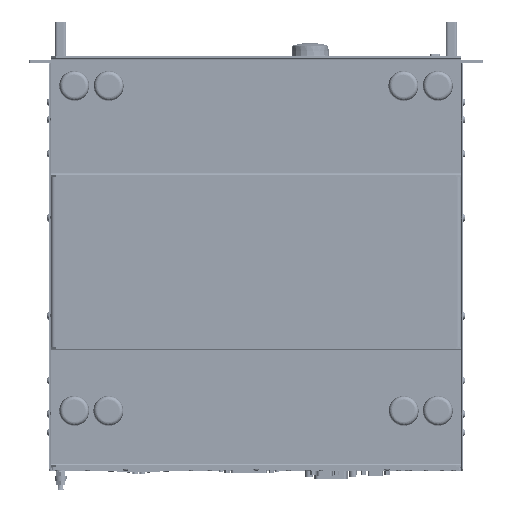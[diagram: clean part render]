
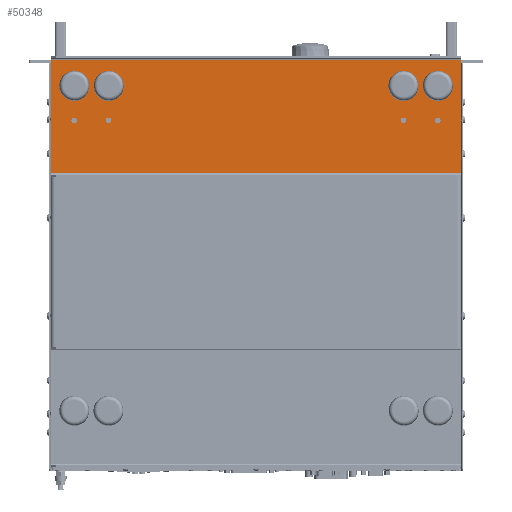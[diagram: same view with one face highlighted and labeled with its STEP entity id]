
A CAD part, front view. The second image highlights one B-rep face of the part: STEP entity #50348.
In plain terms, the highlighted planar face has unit normal (0, -1, 0).
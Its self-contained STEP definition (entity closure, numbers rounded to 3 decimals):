
#50348=ADVANCED_FACE('',(#107739,#107740,#107741,#107742,#107743,#107744,#107745,#107746,#107747),#107748,.T.);
#107739=FACE_OUTER_BOUND('',#203176,.T.);
#107740=FACE_BOUND('',#203177,.T.);
#107741=FACE_BOUND('',#203178,.T.);
#107742=FACE_BOUND('',#203179,.T.);
#107743=FACE_BOUND('',#203180,.T.);
#107744=FACE_BOUND('',#203181,.T.);
#107745=FACE_BOUND('',#203182,.T.);
#107746=FACE_BOUND('',#203183,.T.);
#107747=FACE_BOUND('',#203184,.T.);
#107748=PLANE('',#203185);
#203176=EDGE_LOOP('',(#342150,#342151,#342152,#342153));
#203177=EDGE_LOOP('',(#342154,#342155));
#203178=EDGE_LOOP('',(#342156,#342157));
#203179=EDGE_LOOP('',(#342158,#342159));
#203180=EDGE_LOOP('',(#342160,#342161));
#203181=EDGE_LOOP('',(#342162,#342163));
#203182=EDGE_LOOP('',(#342164,#342165));
#203183=EDGE_LOOP('',(#342166,#342167));
#203184=EDGE_LOOP('',(#342168,#342169));
#203185=AXIS2_PLACEMENT_3D('',#342170,#342171,#342172);
#342150=ORIENTED_EDGE('',*,*,#446006,.F.);
#342151=ORIENTED_EDGE('',*,*,#446036,.T.);
#342152=ORIENTED_EDGE('',*,*,#446010,.F.);
#342153=ORIENTED_EDGE('',*,*,#446088,.T.);
#342154=ORIENTED_EDGE('',*,*,#445983,.T.);
#342155=ORIENTED_EDGE('',*,*,#446072,.T.);
#342156=ORIENTED_EDGE('',*,*,#445978,.T.);
#342157=ORIENTED_EDGE('',*,*,#446074,.T.);
#342158=ORIENTED_EDGE('',*,*,#445973,.T.);
#342159=ORIENTED_EDGE('',*,*,#446076,.T.);
#342160=ORIENTED_EDGE('',*,*,#445968,.T.);
#342161=ORIENTED_EDGE('',*,*,#446078,.T.);
#342162=ORIENTED_EDGE('',*,*,#445963,.T.);
#342163=ORIENTED_EDGE('',*,*,#446080,.T.);
#342164=ORIENTED_EDGE('',*,*,#445958,.T.);
#342165=ORIENTED_EDGE('',*,*,#446082,.T.);
#342166=ORIENTED_EDGE('',*,*,#445953,.T.);
#342167=ORIENTED_EDGE('',*,*,#446084,.T.);
#342168=ORIENTED_EDGE('',*,*,#445948,.T.);
#342169=ORIENTED_EDGE('',*,*,#446086,.T.);
#342170=CARTESIAN_POINT('',(241.298,15.,-101.723));
#342171=DIRECTION('',(0.,-1.0,0.));
#342172=DIRECTION('',(-1.0,0.,0.));
#445948=EDGE_CURVE('',#534207,#534211,#534213,.T.);
#445953=EDGE_CURVE('',#534216,#534220,#534222,.T.);
#445958=EDGE_CURVE('',#534225,#534229,#534231,.T.);
#445963=EDGE_CURVE('',#534234,#534238,#534240,.T.);
#445968=EDGE_CURVE('',#534243,#534247,#534249,.T.);
#445973=EDGE_CURVE('',#534252,#534256,#534258,.T.);
#445978=EDGE_CURVE('',#534261,#534265,#534267,.T.);
#445983=EDGE_CURVE('',#534270,#534274,#534276,.T.);
#446006=EDGE_CURVE('',#534314,#534316,#534317,.T.);
#446010=EDGE_CURVE('',#534320,#534322,#534323,.T.);
#446036=EDGE_CURVE('',#534314,#534322,#534362,.T.);
#446072=EDGE_CURVE('',#534274,#534270,#534405,.T.);
#446074=EDGE_CURVE('',#534265,#534261,#534407,.T.);
#446076=EDGE_CURVE('',#534256,#534252,#534409,.T.);
#446078=EDGE_CURVE('',#534247,#534243,#534411,.T.);
#446080=EDGE_CURVE('',#534238,#534234,#534413,.T.);
#446082=EDGE_CURVE('',#534229,#534225,#534415,.T.);
#446084=EDGE_CURVE('',#534220,#534216,#534417,.T.);
#446086=EDGE_CURVE('',#534211,#534207,#534419,.T.);
#446088=EDGE_CURVE('',#534320,#534316,#534421,.T.);
#534207=VERTEX_POINT('',#661682);
#534211=VERTEX_POINT('',#661687);
#534213=CIRCLE('',#661690,3.0);
#534216=VERTEX_POINT('',#661693);
#534220=VERTEX_POINT('',#661698);
#534222=CIRCLE('',#661701,3.0);
#534225=VERTEX_POINT('',#661704);
#534229=VERTEX_POINT('',#661709);
#534231=CIRCLE('',#661712,3.0);
#534234=VERTEX_POINT('',#661715);
#534238=VERTEX_POINT('',#661720);
#534240=CIRCLE('',#661723,3.0);
#534243=VERTEX_POINT('',#661726);
#534247=VERTEX_POINT('',#661731);
#534249=CIRCLE('',#661734,3.0);
#534252=VERTEX_POINT('',#661737);
#534256=VERTEX_POINT('',#661742);
#534258=CIRCLE('',#661745,3.0);
#534261=VERTEX_POINT('',#661748);
#534265=VERTEX_POINT('',#661753);
#534267=CIRCLE('',#661756,3.0);
#534270=VERTEX_POINT('',#661759);
#534274=VERTEX_POINT('',#661764);
#534276=CIRCLE('',#661767,3.0);
#534314=VERTEX_POINT('',#661813);
#534316=VERTEX_POINT('',#661815);
#534317=LINE('',#661816,#661817);
#534320=VERTEX_POINT('',#661820);
#534322=VERTEX_POINT('',#661822);
#534323=LINE('',#661823,#661824);
#534362=LINE('',#661878,#661879);
#534405=CIRCLE('',#661939,3.0);
#534407=CIRCLE('',#661941,3.0);
#534409=CIRCLE('',#661943,3.0);
#534411=CIRCLE('',#661945,3.0);
#534413=CIRCLE('',#661947,3.0);
#534415=CIRCLE('',#661949,3.0);
#534417=CIRCLE('',#661951,3.0);
#534419=CIRCLE('',#661953,3.0);
#534421=LINE('',#661955,#661956);
#661682=CARTESIAN_POINT('',(431.725,15.,-105.88));
#661687=CARTESIAN_POINT('',(437.725,15.,-105.88));
#661690=AXIS2_PLACEMENT_3D('',#757169,#757170,#757171);
#661693=CARTESIAN_POINT('',(395.097,15.,-105.88));
#661698=CARTESIAN_POINT('',(401.097,15.,-105.88));
#661701=AXIS2_PLACEMENT_3D('',#757177,#757178,#757179);
#661704=CARTESIAN_POINT('',(431.725,15.,-69.252));
#661709=CARTESIAN_POINT('',(437.725,15.,-69.252));
#661712=AXIS2_PLACEMENT_3D('',#757185,#757186,#757187);
#661715=CARTESIAN_POINT('',(395.097,15.,-69.252));
#661720=CARTESIAN_POINT('',(401.097,15.,-69.252));
#661723=AXIS2_PLACEMENT_3D('',#757193,#757194,#757195);
#661726=CARTESIAN_POINT('',(81.498,15.,-105.88));
#661731=CARTESIAN_POINT('',(87.498,15.,-105.88));
#661734=AXIS2_PLACEMENT_3D('',#757201,#757202,#757203);
#661737=CARTESIAN_POINT('',(44.87,15.,-105.88));
#661742=CARTESIAN_POINT('',(50.87,15.,-105.88));
#661745=AXIS2_PLACEMENT_3D('',#757209,#757210,#757211);
#661748=CARTESIAN_POINT('',(81.498,15.,-69.252));
#661753=CARTESIAN_POINT('',(87.498,15.,-69.252));
#661756=AXIS2_PLACEMENT_3D('',#757217,#757218,#757219);
#661759=CARTESIAN_POINT('',(44.87,15.,-69.252));
#661764=CARTESIAN_POINT('',(50.87,15.,-69.252));
#661767=AXIS2_PLACEMENT_3D('',#757225,#757226,#757227);
#661813=CARTESIAN_POINT('',(459.725,15.,-161.88));
#661815=CARTESIAN_POINT('',(22.87,15.,-161.88));
#661816=CARTESIAN_POINT('',(241.298,15.,-161.88));
#661817=VECTOR('',#757263,1.0);
#661820=CARTESIAN_POINT('',(22.87,15.,-41.566));
#661822=CARTESIAN_POINT('',(459.725,15.,-41.566));
#661823=CARTESIAN_POINT('',(241.298,15.,-41.566));
#661824=VECTOR('',#757270,1.0);
#661878=CARTESIAN_POINT('',(459.725,15.,-101.723));
#661879=VECTOR('',#757301,1.0);
#661939=AXIS2_PLACEMENT_3D('',#757343,#757344,#757345);
#661941=AXIS2_PLACEMENT_3D('',#757346,#757347,#757348);
#661943=AXIS2_PLACEMENT_3D('',#757349,#757350,#757351);
#661945=AXIS2_PLACEMENT_3D('',#757352,#757353,#757354);
#661947=AXIS2_PLACEMENT_3D('',#757355,#757356,#757357);
#661949=AXIS2_PLACEMENT_3D('',#757358,#757359,#757360);
#661951=AXIS2_PLACEMENT_3D('',#757361,#757362,#757363);
#661953=AXIS2_PLACEMENT_3D('',#757364,#757365,#757366);
#661955=CARTESIAN_POINT('',(22.87,15.,-101.723));
#661956=VECTOR('',#757367,1.0);
#757169=CARTESIAN_POINT('',(434.725,15.,-105.88));
#757170=DIRECTION('',(0.,1.0,0.));
#757171=DIRECTION('',(-1.0,0.,0.));
#757177=CARTESIAN_POINT('',(398.097,15.,-105.88));
#757178=DIRECTION('',(0.,1.0,0.));
#757179=DIRECTION('',(-1.0,0.,0.));
#757185=CARTESIAN_POINT('',(434.725,15.,-69.252));
#757186=DIRECTION('',(0.,1.0,0.));
#757187=DIRECTION('',(-1.0,0.,0.));
#757193=CARTESIAN_POINT('',(398.097,15.,-69.252));
#757194=DIRECTION('',(0.,1.0,0.));
#757195=DIRECTION('',(-1.0,0.,0.));
#757201=CARTESIAN_POINT('',(84.498,15.,-105.88));
#757202=DIRECTION('',(0.,1.0,0.));
#757203=DIRECTION('',(-1.0,0.,0.));
#757209=CARTESIAN_POINT('',(47.87,15.,-105.88));
#757210=DIRECTION('',(0.,1.0,0.));
#757211=DIRECTION('',(-1.0,0.,0.));
#757217=CARTESIAN_POINT('',(84.498,15.,-69.252));
#757218=DIRECTION('',(0.,1.0,0.));
#757219=DIRECTION('',(-1.0,0.,0.));
#757225=CARTESIAN_POINT('',(47.87,15.,-69.252));
#757226=DIRECTION('',(0.,1.0,0.));
#757227=DIRECTION('',(-1.0,0.,0.));
#757263=DIRECTION('',(-1.0,0.,0.));
#757270=DIRECTION('',(1.0,0.,0.));
#757301=DIRECTION('',(0.,0.,1.0));
#757343=CARTESIAN_POINT('',(47.87,15.,-69.252));
#757344=DIRECTION('',(0.,1.0,0.));
#757345=DIRECTION('',(-1.0,0.,0.));
#757346=CARTESIAN_POINT('',(84.498,15.,-69.252));
#757347=DIRECTION('',(0.,1.0,0.));
#757348=DIRECTION('',(-1.0,0.,0.));
#757349=CARTESIAN_POINT('',(47.87,15.,-105.88));
#757350=DIRECTION('',(0.,1.0,0.));
#757351=DIRECTION('',(-1.0,0.,0.));
#757352=CARTESIAN_POINT('',(84.498,15.,-105.88));
#757353=DIRECTION('',(0.,1.0,0.));
#757354=DIRECTION('',(-1.0,0.,0.));
#757355=CARTESIAN_POINT('',(398.097,15.,-69.252));
#757356=DIRECTION('',(0.,1.0,0.));
#757357=DIRECTION('',(-1.0,0.,0.));
#757358=CARTESIAN_POINT('',(434.725,15.,-69.252));
#757359=DIRECTION('',(0.,1.0,0.));
#757360=DIRECTION('',(-1.0,0.,0.));
#757361=CARTESIAN_POINT('',(398.097,15.,-105.88));
#757362=DIRECTION('',(0.,1.0,0.));
#757363=DIRECTION('',(-1.0,0.,0.));
#757364=CARTESIAN_POINT('',(434.725,15.,-105.88));
#757365=DIRECTION('',(0.,1.0,0.));
#757366=DIRECTION('',(-1.0,0.,0.));
#757367=DIRECTION('',(0.,0.,-1.0));
